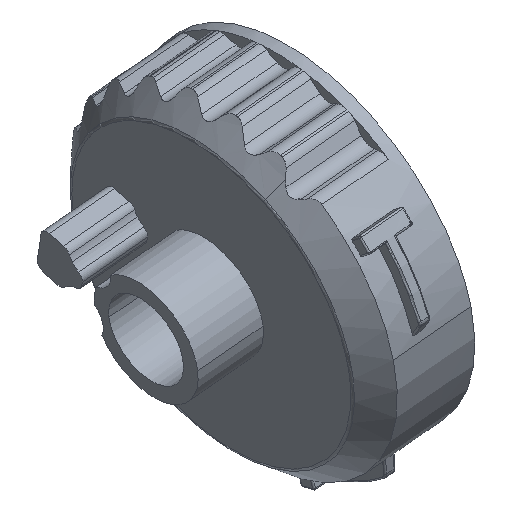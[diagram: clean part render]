
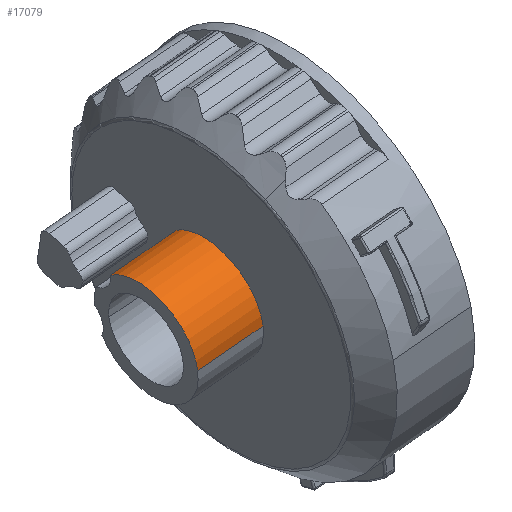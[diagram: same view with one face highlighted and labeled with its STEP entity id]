
A CAD part, isometric view. The second image highlights one B-rep face of the part: STEP entity #17079.
In plain terms, the highlighted cylindrical face has radius 7.25 mm (diameter 14.5 mm), a partial arc.
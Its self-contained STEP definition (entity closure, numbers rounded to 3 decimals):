
#16981=AXIS2_PLACEMENT_3D('Circle Axis2P3D',#16979,#16980,$) ;
#17007=AXIS2_PLACEMENT_3D('Cylinder Axis2P3D',#17004,#17005,#17006) ;
#17063=AXIS2_PLACEMENT_3D('Circle Axis2P3D',#17061,#17062,$) ;
#16976=CARTESIAN_POINT('Vertex',(1103.359,-937.808,259.128)) ;
#16979=CARTESIAN_POINT('Axis2P3D Location',(1103.532,-930.56,259.128)) ;
#16983=CARTESIAN_POINT('Vertex',(1102.911,-926.358,265.003)) ;
#17004=CARTESIAN_POINT('Axis2P3D Location',(1107.898,-930.665,259.665)) ;
#17015=CARTESIAN_POINT('Vertex',(1112.091,-938.017,260.201)) ;
#17018=CARTESIAN_POINT('Line Origine',(1107.725,-937.913,259.665)) ;
#17061=CARTESIAN_POINT('Axis2P3D Location',(1112.264,-930.769,260.201)) ;
#17065=CARTESIAN_POINT('Vertex',(1111.643,-926.567,266.076)) ;
#17068=CARTESIAN_POINT('Line Origine',(1107.277,-926.462,265.54)) ;
#16980=DIRECTION('Axis2P3D Direction',(-0.992,0.024,-0.122)) ;
#17005=DIRECTION('Axis2P3D Direction',(-0.992,0.024,-0.122)) ;
#17006=DIRECTION('Axis2P3D XDirection',(-0.024,-1.,0.)) ;
#17019=DIRECTION('Vector Direction',(-0.992,0.024,-0.122)) ;
#17062=DIRECTION('Axis2P3D Direction',(-0.992,0.024,-0.122)) ;
#17069=DIRECTION('Vector Direction',(-0.992,0.024,-0.122)) ;
#17020=VECTOR('Line Direction',#17019,1.) ;
#17070=VECTOR('Line Direction',#17069,1.) ;
#17074=ORIENTED_EDGE('',*,*,#16985,.F.) ;
#17075=ORIENTED_EDGE('',*,*,#17022,.F.) ;
#17076=ORIENTED_EDGE('',*,*,#17067,.T.) ;
#17077=ORIENTED_EDGE('',*,*,#17072,.F.) ;
#17079=ADVANCED_FACE('\X2\96F64EF651E04F554F53\X0\',(#17078),#17008,.T.) ;
#16982=CIRCLE('generated circle',#16981,7.25) ;
#17064=CIRCLE('generated circle',#17063,7.25) ;
#17008=CYLINDRICAL_SURFACE('generated cylinder',#17007,7.25) ;
#16985=EDGE_CURVE('',#16977,#16984,#16982,.T.) ;
#17022=EDGE_CURVE('',#17016,#16977,#17021,.T.) ;
#17067=EDGE_CURVE('',#17016,#17066,#17064,.T.) ;
#17072=EDGE_CURVE('',#16984,#17066,#17071,.F.) ;
#17073=EDGE_LOOP('',(#17074,#17075,#17076,#17077)) ;
#17078=FACE_OUTER_BOUND('',#17073,.T.) ;
#17021=LINE('Line',#17018,#17020) ;
#17071=LINE('Line',#17068,#17070) ;
#16977=VERTEX_POINT('',#16976) ;
#16984=VERTEX_POINT('',#16983) ;
#17016=VERTEX_POINT('',#17015) ;
#17066=VERTEX_POINT('',#17065) ;
